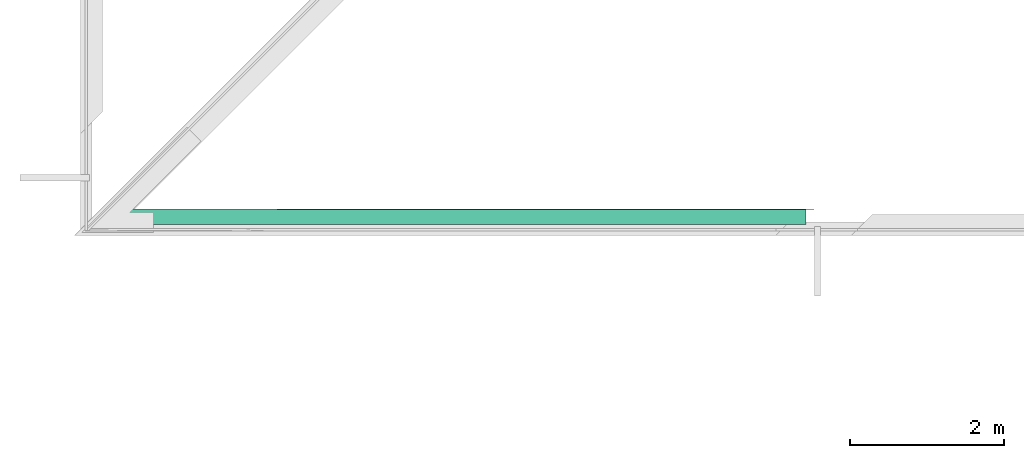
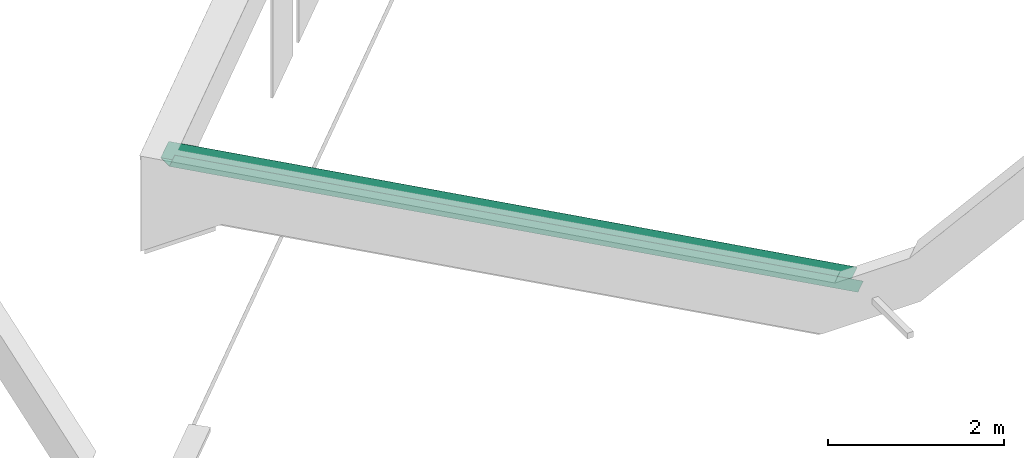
# One storey, part 7 of 8: 1 pipe segment.
"""IFC4X3_ADD2 building model written with IfcOpenShell, lengths in millimetres."""

from ifc_helpers import new_model, si_unit, direction, frame, origin_with_axes, place, context, subcontext, project, spatial, polyline, outline, extrude, source, transform, mapped, material, element, save


model = new_model("IFC4X3_ADD2")

# Units and contexts
model_context = context("Model", 3, precision=1e-05, world=origin_with_axes(), true_north=direction((0.0, 1.0)))
body_context = subcontext(model_context, "Body", "Model", "MODEL_VIEW")
ifc_project = project(units=[si_unit("LENGTHUNIT", "METRE", prefix="MILLI"), si_unit("AREAUNIT", "SQUARE_METRE"), si_unit("VOLUMEUNIT", "CUBIC_METRE"), si_unit("PLANEANGLEUNIT", "RADIAN"), si_unit("TIMEUNIT", "SECOND"), si_unit("MASSUNIT", "GRAM")], contexts=[model_context])

# Site, building, storey
site_placement = place(None, origin_with_axes())
site = spatial("IfcSite", under=ifc_project, at=site_placement, Name="Site", CompositionType="ELEMENT")
building_placement = place(site_placement, origin_with_axes())
building = spatial("IfcBuilding", under=site, at=building_placement, Name="IFC Building Story")
storey_placement = place(building_placement, frame((0.0, 0.0, 17050.0), z_axis=(0.0, 0.0, 1.0), x_axis=(1.0, 0.0, 0.0)))
storey = spatial("IfcBuildingStorey", under=building, at=storey_placement, Name="050", Elevation=17050.0)

# Pipe segment
ifc_material = material(Name="BB_05.02.34_Aluminium_Dakrand_Sheds")
shared_shape = source(origin_with_axes(), body_context, "Body", "SweptSolid", [
    extrude(outline(polyline([(100.0, -56.99999999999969), (98.0, -56.99999999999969), (98.0, 91.00000000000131), (-98.0, 91.00000000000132), (-98.0, -127.0000000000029), (-99.99999999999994, -127.0000000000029), (-99.99999999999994, 93.00000000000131), (100.0, 93.00000000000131), (100.0, -56.99999999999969)])), frame((0.0, 93.0, -100.0), z_axis=(1.0, 0.0, 0.0), x_axis=(0.0, 0.0, 1.0)), (0.0, 0.0, 1.0), 10300.0),
])
pipe_segment_placement = place(storey_placement, frame((-38750.5302165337, 12292.3309514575, 5519.64254246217), z_axis=(-0.000145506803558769, -0.999999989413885, 0.0), x_axis=(0.8787081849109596, -0.0001278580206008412, -0.4773593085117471)))
element("IfcPipeSegment", 1, at=pipe_segment_placement, inside=storey, material=ifc_material, Name="BB_05.02.34#07_Bakgoot aan zijkanten sheddak:XX_Geen", ObjectType="BB_05.02.34#07_Bakgoot aan zijkanten sheddak:XX_Geen", PredefinedType="GUTTER", context=body_context, shape_type="MappedRepresentation", body=[
    mapped(shared_shape, transform((0.0, 0.0, 0.0))),
])

save(model, "model.ifc")
